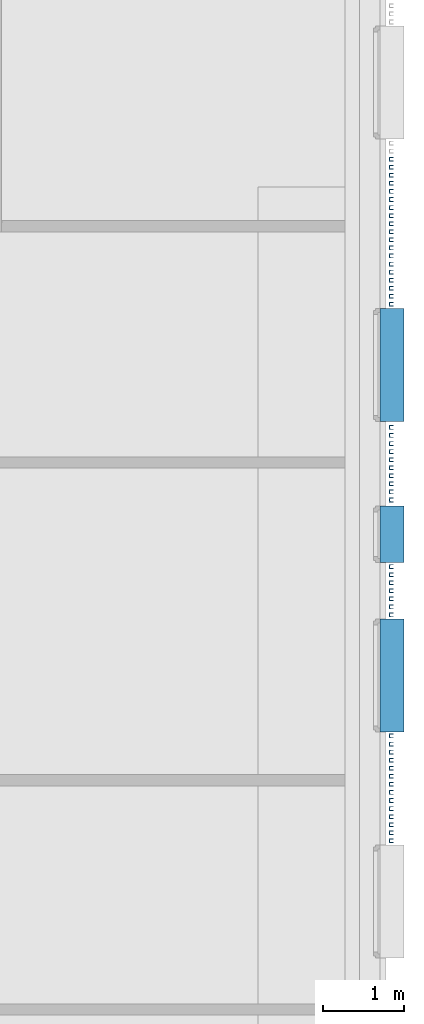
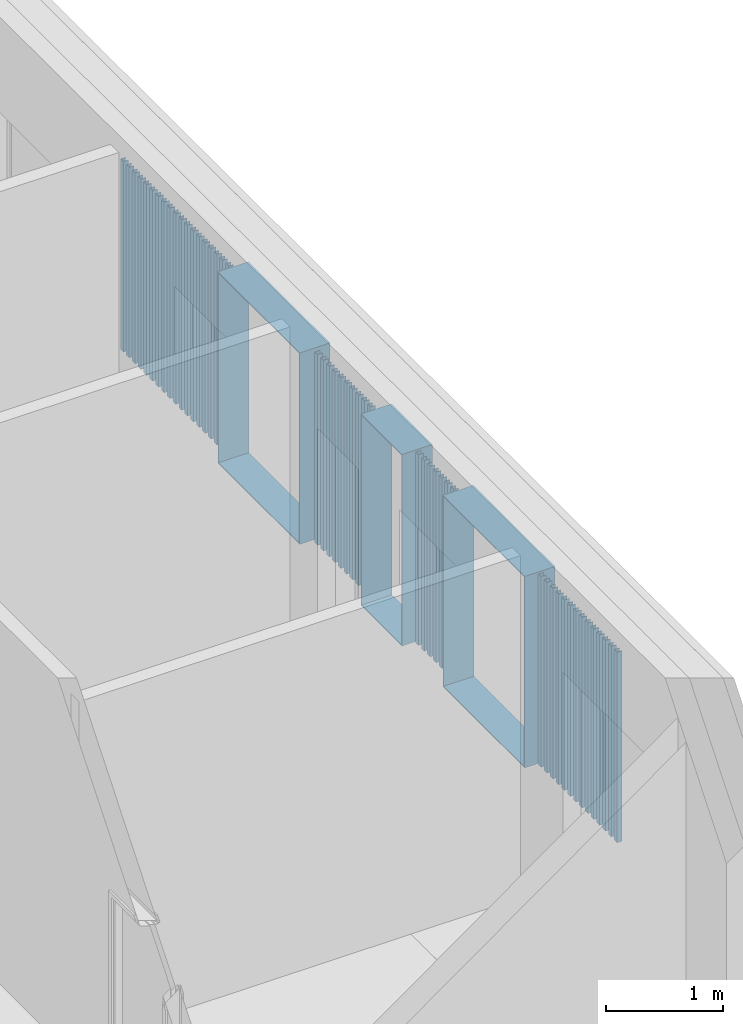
# One storey, part 38 of 100: 53 discrete accessories.
"""IFC2X3 building model written with IfcOpenShell, lengths in millimetres."""

import ifcopenshell
import ifcopenshell.guid

model = None  # the IFC model being written
_history = None  # IfcOwnerHistory: only IFC2X3 demands one
_inside = {}  # id of a spatial element -> (the spatial element, [elements in it])
_under = {}  # id of a project, library or spatial element -> (it, [spatial elements below it])
_declared = {}  # id of a project -> (the project, [libraries it declares])
_typed = {}  # id of a type object -> (the type object, [elements of that type])
_made_of = {}  # id of a material, layer set ... -> (it, [elements and type objects made of it])


def new_model(schema):
    """Start an empty IFC model of exactly this schema.

    Asked for "IFC4X3", IfcOpenShell would pick the latest addendum, in which some entities
    have other attributes; the version numbers below select the first issue.
    IFC2X3 requires an IfcOwnerHistory on every rooted entity: one is made here for all.
    """
    global model, _history
    if schema == "IFC4X3":
        model = ifcopenshell.file(schema_version=(4, 3, 0, 0))
    else:
        model = ifcopenshell.file(schema=schema)
    _inside.clear()
    _under.clear()
    _declared.clear()
    _typed.clear()
    _made_of.clear()
    _history = None
    if model.schema == "IFC2X3":
        org = make("IfcOrganization", Name="unknown")
        user = make(
            "IfcPersonAndOrganization",
            ThePerson=make("IfcPerson", FamilyName="unknown"),
            TheOrganization=org,
        )
        app = make(
            "IfcApplication",
            ApplicationDeveloper=org,
            Version="unknown",
            ApplicationFullName="unknown",
            ApplicationIdentifier="unknown",
        )
        _history = make(
            "IfcOwnerHistory",
            OwningUser=user,
            OwningApplication=app,
            ChangeAction="ADDED",
            CreationDate=0,
        )
    return model


def make(cls, **values):
    """One entity of the class cls with the attributes given. An attribute that is None is left unset."""
    return model.create_entity(
        cls, **{name: value for name, value in values.items() if value is not None}
    )


def entity(cls, *values):
    """Any entity or typed value of the class cls, its attributes in the order of the schema. None: left unset."""
    e = model.create_entity(cls)
    for i, value in enumerate(values):
        if value is not None:
            e[i] = value
    return e


def rooted(cls, **values):
    """An entity with a GlobalId (a new one), such as an element, a storey or a relation."""
    return make(cls, GlobalId=ifcopenshell.guid.new(), OwnerHistory=_history, **values)


def si_unit(unit_type, name, prefix=None):
    """IfcSIUnit, for example si_unit("LENGTHUNIT", "METRE", prefix="MILLI")."""
    return make("IfcSIUnit", UnitType=unit_type, Prefix=prefix, Name=name)


def converted_unit(unit_type, name, factor, base, dimensions=None, offset=None):
    """IfcConversionBasedUnit, such as the inch: factor (a typed value) times the base unit."""
    return make(
        "IfcConversionBasedUnit"
        if offset is None
        else "IfcConversionBasedUnitWithOffset",
        ConversionOffset=offset,
        Dimensions=None
        if dimensions is None
        else entity("IfcDimensionalExponents", *dimensions),
        UnitType=unit_type,
        Name=name,
        ConversionFactor=make(
            "IfcMeasureWithUnit", ValueComponent=factor, UnitComponent=base
        ),
    )


def derived_unit(unit_type, elements):
    """IfcDerivedUnit: a product of units, each with its exponent."""
    return make(
        "IfcDerivedUnit",
        Elements=[
            make("IfcDerivedUnitElement", Unit=unit, Exponent=power)
            for unit, power in elements
        ],
        UnitType=unit_type,
    )


def money_unit(currency):
    """IfcMonetaryUnit."""
    return make("IfcMonetaryUnit", Currency=currency)


def assignment(units):
    """IfcUnitAssignment: the units of a project."""
    return None if units is None else make("IfcUnitAssignment", Units=units)


def point(xyz):
    """IfcCartesianPoint."""
    return None if xyz is None else make("IfcCartesianPoint", Coordinates=xyz)


def direction(xyz):
    """IfcDirection."""
    return None if xyz is None else make("IfcDirection", DirectionRatios=xyz)


def frame(location, z_axis=None, x_axis=None):
    """IfcAxis2Placement3D, a coordinate frame: its origin and axes. An axis left out is left unset."""
    return make(
        "IfcAxis2Placement3D",
        Location=point(location),
        Axis=direction(z_axis),
        RefDirection=direction(x_axis),
    )


def origin_with_axes():
    """The frame at (0, 0, 0) with the z axis (0, 0, 1) and the x axis (1, 0, 0) written out."""
    return frame((0.0, 0.0, 0.0), z_axis=(0.0, 0.0, 1.0), x_axis=(1.0, 0.0, 0.0))


def place(relative_to, where):
    """IfcLocalPlacement: puts the frame where relative to a parent placement (None: the world)."""
    return make(
        "IfcLocalPlacement", PlacementRelTo=relative_to, RelativePlacement=where
    )


def context(
    kind, dimensions, precision=None, world=None, true_north=None, identifier=None
):
    """IfcGeometricRepresentationContext, for example the 3D "Model" context."""
    return make(
        "IfcGeometricRepresentationContext",
        ContextIdentifier=identifier,
        ContextType=kind,
        CoordinateSpaceDimension=dimensions,
        Precision=precision,
        WorldCoordinateSystem=world,
        TrueNorth=true_north,
    )


def subcontext(parent, identifier, kind, view, scale=None):
    """IfcGeometricRepresentationSubContext, for example "Body" below "Model"."""
    return make(
        "IfcGeometricRepresentationSubContext",
        ContextIdentifier=identifier,
        ContextType=kind,
        ParentContext=parent,
        TargetScale=scale,
        TargetView=view,
    )


def project(units=None, contexts=None):
    """IfcProject with its units and contexts."""
    return rooted(
        "IfcProject",
        Name="project",
        RepresentationContexts=contexts,
        UnitsInContext=assignment(units),
    )


def spatial(cls, under=None, at=None, **own):
    """A site, building, storey or space (cls), placed at a placement, below another one or the project."""
    s = rooted(cls, ObjectPlacement=at, **own)
    if under is not None:
        _under.setdefault(under.id(), (under, []))[1].append(s)
    return s


def faces_of(points, faces, orient=None, outer=None):
    """IfcFace entities. A face is a list of loops; a loop is a list of indices into points, from 0.

    orient and outer hold one flag for each loop. By default every Orientation is true, the
    first loop of a face is its IfcFaceOuterBound and the others are IfcFaceBound.
    """
    made = []
    for i, loops in enumerate(faces):
        bounds = []
        for j, loop in enumerate(loops):
            is_outer = j == 0 if outer is None else outer[i][j]
            bounds.append(
                make(
                    "IfcFaceOuterBound" if is_outer else "IfcFaceBound",
                    Bound=make("IfcPolyLoop", Polygon=[points[k] for k in loop]),
                    Orientation=True if orient is None else orient[i][j],
                )
            )
        made.append(make("IfcFace", Bounds=bounds))
    return made


def faceted_brep(points, faces, orient=None, outer=None, voids=None):
    """IfcFacetedBrep: a solid bounded by flat faces; with voids (closed shells), ...WithVoids."""
    shared = [point(p) for p in points]
    hull = make("IfcClosedShell", CfsFaces=faces_of(shared, faces, orient, outer))
    if voids is None:
        return make("IfcFacetedBrep", Outer=hull)
    return make(
        "IfcFacetedBrepWithVoids",
        Outer=hull,
        Voids=[
            make(cls, CfsFaces=faces_of(shared, fs, o, b)) for cls, fs, o, b in voids
        ],
    )


def shape(context_of_items, identifier, shape_type, items):
    """IfcShapeRepresentation: the items that make up one representation, for example the "Body"."""
    return make(
        "IfcShapeRepresentation",
        ContextOfItems=context_of_items,
        RepresentationIdentifier=identifier,
        RepresentationType=shape_type,
        Items=items,
    )


def source(mapping_origin, context_of_items, identifier, shape_type, items):
    """IfcRepresentationMap: a shape defined once, which mapped items show again and again."""
    return make(
        "IfcRepresentationMap",
        MappingOrigin=mapping_origin,
        MappedRepresentation=shape(context_of_items, identifier, shape_type, items),
    )


def transform(
    local_origin,
    x_axis=None,
    y_axis=None,
    z_axis=None,
    scale=None,
    scale2=None,
    scale3=None,
    uniform=True,
):
    """IfcCartesianTransformationOperator3D, or its non-uniform kind. x_axis, y_axis, z_axis: its Axis1, 2, 3."""
    if uniform:
        return make(
            "IfcCartesianTransformationOperator3D",
            Axis1=direction(x_axis),
            Axis2=direction(y_axis),
            LocalOrigin=point(local_origin),
            Scale=scale,
            Axis3=direction(z_axis),
        )
    return make(
        "IfcCartesianTransformationOperator3DnonUniform",
        Axis1=direction(x_axis),
        Axis2=direction(y_axis),
        LocalOrigin=point(local_origin),
        Scale=scale,
        Axis3=direction(z_axis),
        Scale2=scale2,
        Scale3=scale3,
    )


def mapped(mapping_source, mapping_target):
    """IfcMappedItem: shows the shape of a source again, moved by a transform."""
    return make(
        "IfcMappedItem", MappingSource=mapping_source, MappingTarget=mapping_target
    )


def material(Name=None, Category=None):
    """IfcMaterial."""
    return make("IfcMaterial", Name=Name, Category=Category)


def made_of(thing, what):
    """Note that an element or type object is made of a material, layer set ...; save() writes the relation."""
    if what is not None:
        _made_of.setdefault(what.id(), (what, []))[1].append(thing)
    return thing


def type_object(cls, material=None, **own):
    """A type object (cls), such as IfcWallType, which elements share."""
    return made_of(rooted(cls, **own), material)


def element(
    cls,
    number,
    at=None,
    inside=None,
    cuts=None,
    type_object=None,
    material=None,
    context=None,
    identifier="Body",
    shape_type=None,
    held_by="IfcProductDefinitionShape",
    body=None,
    shapes=None,
    **own,
):
    """One element of the class cls, such as IfcWall. Its Tag is "e" and its number.

    at: its placement. inside: the storey or other place that contains it. cuts: it is an
    opening in that element (IfcRelVoidsElement). A single representation is given by context,
    identifier, shape_type and body (its items); several are given by shapes. held_by: the class
    of the entity that holds the representations. save() writes the other relations.
    """
    e = rooted(cls, Tag="e%d" % number, ObjectPlacement=at, **own)
    if body is not None:
        shapes = [shape(context, identifier, shape_type, body)]
    if shapes is not None:
        e.Representation = make(held_by, Representations=shapes)
    if inside is not None:
        _inside.setdefault(inside.id(), (inside, []))[1].append(e)
    if cuts is not None:
        rooted(
            "IfcRelVoidsElement", RelatingBuildingElement=cuts, RelatedOpeningElement=e
        )
    if type_object is not None:
        _typed.setdefault(type_object.id(), (type_object, []))[1].append(e)
    return made_of(e, material)


def aggregate(whole, parts):
    """IfcRelAggregates: a whole, such as a stair, and the parts it consists of."""
    return rooted("IfcRelAggregates", RelatingObject=whole, RelatedObjects=parts)


def save(model, path):
    """Write the relations noted so far, then the file.

    IfcRelAggregates (storeys below a building ...), IfcRelContainedInSpatialStructure (elements
    in a storey), IfcRelDefinesByType, IfcRelAssociatesMaterial and IfcRelDeclares: one each for
    every whole, place, type object, material and project.
    """
    for whole, parts in _under.values():
        aggregate(whole, parts)
    for where, things in _inside.values():
        rooted(
            "IfcRelContainedInSpatialStructure",
            RelatedElements=things,
            RelatingStructure=where,
        )
    for kind, things in _typed.values():
        rooted("IfcRelDefinesByType", RelatedObjects=things, RelatingType=kind)
    for what, things in _made_of.values():
        rooted("IfcRelAssociatesMaterial", RelatedObjects=things, RelatingMaterial=what)
    for by, libraries in _declared.values():
        rooted("IfcRelDeclares", RelatingContext=by, RelatedDefinitions=libraries)
    model.write(path)


model = new_model("IFC2X3")

# Units and contexts
model_context = context("Model", 3, precision=0.01, world=origin_with_axes(), true_north=direction((0.0, 1.0)))
body_context = subcontext(model_context, "Body", "Model", "MODEL_VIEW")
ifc_project = project(units=[si_unit("LENGTHUNIT", "METRE", prefix="MILLI"), si_unit("AREAUNIT", "SQUARE_METRE"), si_unit("VOLUMEUNIT", "CUBIC_METRE"), converted_unit("PLANEANGLEUNIT", "DEGREE", entity("IfcPlaneAngleMeasure", 0.0174532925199), si_unit("PLANEANGLEUNIT", "RADIAN"), dimensions=[0, 0, 0, 0, 0, 0, 0]), si_unit("SOLIDANGLEUNIT", "STERADIAN"), money_unit("EUR"), converted_unit("TIMEUNIT", "Year", entity("IfcTimeMeasure", 31556926.0), si_unit("TIMEUNIT", "SECOND"), dimensions=[0, 0, 1, 0, 0, 0, 0]), si_unit("MASSUNIT", "GRAM", prefix="KILO"), si_unit("THERMODYNAMICTEMPERATUREUNIT", "DEGREE_CELSIUS"), si_unit("LUMINOUSINTENSITYUNIT", "LUMEN"), si_unit("ENERGYUNIT", "JOULE", prefix="MEGA"), derived_unit("THERMALCONDUCTANCEUNIT", [(si_unit("POWERUNIT", "WATT"), 1), (si_unit("LENGTHUNIT", "METRE"), -1), (si_unit("THERMODYNAMICTEMPERATUREUNIT", "KELVIN"), -1)]), derived_unit("SPECIFICHEATCAPACITYUNIT", [(si_unit("ENERGYUNIT", "JOULE"), 1), (si_unit("MASSUNIT", "GRAM", prefix="KILO"), -1), (si_unit("THERMODYNAMICTEMPERATUREUNIT", "KELVIN"), -1)]), derived_unit("MASSDENSITYUNIT", [(si_unit("MASSUNIT", "GRAM", prefix="KILO"), 1), (si_unit("VOLUMEUNIT", "CUBIC_METRE"), -1)])], contexts=[model_context])

# Site, building, storey
site_placement = place(None, origin_with_axes())
site = spatial("IfcSite", under=ifc_project, at=site_placement, Name="Politse- ja Piirivalveameti ning Päästeameti ühishoone", CompositionType="ELEMENT")
building_placement = place(site_placement, origin_with_axes())
building = spatial("IfcBuilding", under=site, at=building_placement, Name="Politse- ja Piirivalveameti ning Päästeameti ühishoone", CompositionType="ELEMENT")
storey_placement = place(building_placement, frame((0.0, 0.0, 3800.0), z_axis=(0.0, 0.0, 1.0), x_axis=(1.0, 0.0, 0.0)))
storey = spatial("IfcBuildingStorey", under=building, at=storey_placement, Name="Teine korrus", CompositionType="ELEMENT", Elevation=3800.0)

# Discrete accessories
ifc_material_1 = material(Name="SV-01_Krohv - Kips")
discrete_accessory_type_1 = type_object("IfcDiscreteAccessoryType", Name="Architrave 01 23")
shared_shape_1 = source(origin_with_axes(), body_context, "Body", "Brep", [
    faceted_brep([(-350.0, 0.0, -10.0), (350.0, 0.0, -10.0), (350.0, -300.182356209, -10.0), (-350.0, -300.182356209, -10.0), (-340.0, 0.0, 0.0), (340.0, 0.0, 0.0), (340.0, -300.182356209, 0.0), (-340.0, -300.182356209, 0.0)], [[[0, 1, 2, 3]], [[0, 4, 5, 1]], [[1, 5, 6, 2]], [[3, 2, 6, 7]], [[4, 0, 3, 7]], [[5, 4, 7, 6]]]),
    faceted_brep([(350.0, 0.0, -10.0), (350.0, 0.0, 1990.0), (350.0, -300.182356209, 1990.0), (350.0, -300.182356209, -10.0), (340.0, 0.0, 0.0), (340.0, 0.0, 1980.0), (340.0, -300.182356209, 1980.0), (340.0, -300.182356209, 0.0)], [[[0, 1, 2, 3]], [[0, 4, 5, 1]], [[1, 5, 6, 2]], [[3, 2, 6, 7]], [[4, 0, 3, 7]], [[5, 4, 7, 6]]]),
    faceted_brep([(350.0, 0.0, 1990.0), (-350.0, 0.0, 1990.0), (-350.0, -300.182356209, 1990.0), (350.0, -300.182356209, 1990.0), (340.0, 0.0, 1980.0), (-340.0, 0.0, 1980.0), (-340.0, -300.182356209, 1980.0), (340.0, -300.182356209, 1980.0)], [[[0, 1, 2, 3]], [[0, 4, 5, 1]], [[1, 5, 6, 2]], [[3, 2, 6, 7]], [[4, 0, 3, 7]], [[5, 4, 7, 6]]]),
    faceted_brep([(-350.0, 0.0, 1990.0), (-350.0, 0.0, -10.0), (-350.0, -300.182356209, -10.0), (-350.0, -300.182356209, 1990.0), (-340.0, 0.0, 1980.0), (-340.0, 0.0, 0.0), (-340.0, -300.182356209, 0.0), (-340.0, -300.182356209, 1980.0)], [[[0, 1, 2, 3]], [[0, 4, 5, 1]], [[1, 5, 6, 2]], [[3, 2, 6, 7]], [[4, 0, 3, 7]], [[5, 4, 7, 6]]]),
])
discrete_accessory_placement = place(storey_placement, frame((70090.5664257, 11499.9520832, 810.0), z_axis=(0.0, 0.0, 1.0), x_axis=(0.0, 1.0, 0.0)))
element("IfcDiscreteAccessory", 1, at=discrete_accessory_placement, inside=storey, type_object=discrete_accessory_type_1, material=ifc_material_1, Name="AKNARAAM 01", context=body_context, shape_type="MappedRepresentation", body=[
    mapped(shared_shape_1, transform((0.0, 0.0, 0.0))),
])
shared_shape_2 = source(origin_with_axes(), body_context, "Body", "Brep", [
    faceted_brep([(-700.0, 0.0, -10.0), (700.0, 0.0, -10.0), (700.0, -300.182356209, -10.0), (-700.0, -300.182356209, -10.0), (-690.0, 0.0, 0.0), (690.0, 0.0, 0.0), (690.0, -300.182356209, 0.0), (-690.0, -300.182356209, 0.0)], [[[0, 1, 2, 3]], [[0, 4, 5, 1]], [[1, 5, 6, 2]], [[3, 2, 6, 7]], [[4, 0, 3, 7]], [[5, 4, 7, 6]]]),
    faceted_brep([(700.0, 0.0, -10.0), (700.0, 0.0, 1990.0), (700.0, -300.182356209, 1990.0), (700.0, -300.182356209, -10.0), (690.0, 0.0, 0.0), (690.0, 0.0, 1980.0), (690.0, -300.182356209, 1980.0), (690.0, -300.182356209, 0.0)], [[[0, 1, 2, 3]], [[0, 4, 5, 1]], [[1, 5, 6, 2]], [[3, 2, 6, 7]], [[4, 0, 3, 7]], [[5, 4, 7, 6]]]),
    faceted_brep([(700.0, 0.0, 1990.0), (-700.0, 0.0, 1990.0), (-700.0, -300.182356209, 1990.0), (700.0, -300.182356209, 1990.0), (690.0, 0.0, 1980.0), (-690.0, 0.0, 1980.0), (-690.0, -300.182356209, 1980.0), (690.0, -300.182356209, 1980.0)], [[[0, 1, 2, 3]], [[0, 4, 5, 1]], [[1, 5, 6, 2]], [[3, 2, 6, 7]], [[4, 0, 3, 7]], [[5, 4, 7, 6]]]),
    faceted_brep([(-700.0, 0.0, 1990.0), (-700.0, 0.0, -10.0), (-700.0, -300.182356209, -10.0), (-700.0, -300.182356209, 1990.0), (-690.0, 0.0, 1980.0), (-690.0, 0.0, 0.0), (-690.0, -300.182356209, 0.0), (-690.0, -300.182356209, 1980.0)], [[[0, 1, 2, 3]], [[0, 4, 5, 1]], [[1, 5, 6, 2]], [[3, 2, 6, 7]], [[4, 0, 3, 7]], [[5, 4, 7, 6]]]),
])
for number, where, z_axis, x_axis, name in (
    (2, (70090.5664257, 9749.95208321, 810.0), (0.0, 0.0, 1.0), (0.0, 1.0, 0.0), "AKNARAAM 01"),
    (3, (70090.5664257, 13599.9520832, 810.0), (0.0, 0.0, 1.0), (0.0, 1.0, 0.0), "AKNARAAM 01"),
):
    element("IfcDiscreteAccessory", number, at=place(storey_placement, frame(where, z_axis=z_axis, x_axis=x_axis)), inside=storey, type_object=discrete_accessory_type_1, material=ifc_material_1, Name=name, context=body_context, shape_type="MappedRepresentation", body=[
        mapped(shared_shape_2, transform((0.0, 0.0, 0.0))),
    ])
ifc_material_2 = material(Name="ET-05_Teras")
discrete_accessory_type_2 = type_object("IfcDiscreteAccessoryType", Name="UAP Column 23")
shared_shape_3 = source(origin_with_axes(), body_context, "Body", "Brep", [
    faceted_brep([(25.0, -25.0, 0.0), (25.0, -20.0, 0.0), (25.0, -20.0, 1990.0), (25.0, -25.0, 1990.0), (-25.0, -25.0, 0.0), (-25.0, 25.0, 0.0), (25.0, 25.0, 0.0), (25.0, 20.0, 0.0), (-8.5, 20.0, 0.0), (-14.25, 18.4592921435, 0.0), (-18.4592921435, 14.25, 0.0), (-20.0, 8.5, 0.0), (-20.0, -8.5, 0.0), (-18.4592921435, -14.25, 0.0), (-14.25, -18.4592921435, 0.0), (-8.5, -20.0, 0.0), (-8.5, -20.0, 1990.0), (-14.25, -18.4592921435, 1990.0), (-18.4592921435, -14.25, 1990.0), (-20.0, -8.5, 1990.0), (-20.0, 8.5, 1990.0), (-18.4592921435, 14.25, 1990.0), (-14.25, 18.4592921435, 1990.0), (-8.5, 20.0, 1990.0), (25.0, 20.0, 1990.0), (25.0, 25.0, 1990.0), (-25.0, 25.0, 1990.0), (-25.0, -25.0, 1990.0)], [[[0, 1, 2, 3]], [[0, 4, 5, 6, 7, 8, 9, 10, 11, 12, 13, 14, 15, 1]], [[1, 15, 16, 2]], [[3, 2, 16, 17, 18, 19, 20, 21, 22, 23, 24, 25, 26, 27]], [[4, 0, 3, 27]], [[5, 4, 27, 26]], [[6, 5, 26, 25]], [[7, 6, 25, 24]], [[8, 7, 24, 23]], [[9, 8, 23, 22]], [[10, 9, 22, 21]], [[11, 10, 21, 20]], [[12, 11, 20, 19]], [[13, 12, 19, 18]], [[14, 13, 18, 17]], [[15, 14, 17, 16]]]),
])
for number, where, z_axis, x_axis in (
    (4, (70235.2095212, 7699.95208321, 810.000049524), (0.0, 0.0, 1.0), (1.0, 0.0, 0.0)),
    (5, (70235.2095212, 7799.95208321, 810.000049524), (0.0, 0.0, 1.0), (1.0, 0.0, 0.0)),
    (6, (70235.2095212, 7899.95208321, 810.000049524), (0.0, 0.0, 1.0), (1.0, 0.0, 0.0)),
    (7, (70235.2095212, 7999.95208321, 810.000049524), (0.0, 0.0, 1.0), (1.0, 0.0, 0.0)),
    (8, (70235.2095212, 8099.95208321, 810.000049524), (0.0, 0.0, 1.0), (1.0, 0.0, 0.0)),
    (9, (70235.2095212, 8199.95208321, 810.000049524), (0.0, 0.0, 1.0), (1.0, 0.0, 0.0)),
    (10, (70235.2095212, 8299.95208321, 810.000049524), (0.0, 0.0, 1.0), (1.0, 0.0, 0.0)),
    (11, (70235.2095212, 8399.95208321, 810.000049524), (0.0, 0.0, 1.0), (1.0, 0.0, 0.0)),
    (12, (70235.2095212, 8499.95208321, 810.000049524), (0.0, 0.0, 1.0), (1.0, 0.0, 0.0)),
    (13, (70235.2095212, 8599.95208321, 810.000049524), (0.0, 0.0, 1.0), (1.0, 0.0, 0.0)),
    (14, (70235.2095212, 8699.95208321, 810.000049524), (0.0, 0.0, 1.0), (1.0, 0.0, 0.0)),
    (15, (70235.2095212, 8799.95208321, 810.000049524), (0.0, 0.0, 1.0), (1.0, 0.0, 0.0)),
    (16, (70235.2095212, 8899.95208321, 810.000049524), (0.0, 0.0, 1.0), (1.0, 0.0, 0.0)),
    (17, (70235.2095212, 8999.95208321, 810.000049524), (0.0, 0.0, 1.0), (1.0, 0.0, 0.0)),
    (18, (70235.2095212, 14349.9520832, 810.000049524), (0.0, 0.0, 1.0), (1.0, 0.0, 0.0)),
    (19, (70235.2095212, 14449.9520832, 810.000049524), (0.0, 0.0, 1.0), (1.0, 0.0, 0.0)),
    (20, (70235.2095212, 14549.9520832, 810.000049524), (0.0, 0.0, 1.0), (1.0, 0.0, 0.0)),
    (21, (70235.2095212, 14649.9520832, 810.000049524), (0.0, 0.0, 1.0), (1.0, 0.0, 0.0)),
    (22, (70235.2095212, 14749.9520832, 810.000049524), (0.0, 0.0, 1.0), (1.0, 0.0, 0.0)),
    (23, (70235.2095212, 14849.9520832, 810.000049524), (0.0, 0.0, 1.0), (1.0, 0.0, 0.0)),
    (24, (70235.2095212, 14949.9520832, 810.000049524), (0.0, 0.0, 1.0), (1.0, 0.0, 0.0)),
    (25, (70235.2095212, 15049.9520832, 810.000049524), (0.0, 0.0, 1.0), (1.0, 0.0, 0.0)),
    (26, (70235.2095212, 15149.9520832, 810.000049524), (0.0, 0.0, 1.0), (1.0, 0.0, 0.0)),
    (27, (70235.2095212, 15249.9520832, 810.000049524), (0.0, 0.0, 1.0), (1.0, 0.0, 0.0)),
    (28, (70235.2095212, 15349.9520832, 810.000049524), (0.0, 0.0, 1.0), (1.0, 0.0, 0.0)),
    (29, (70235.2095212, 15449.9520832, 810.000049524), (0.0, 0.0, 1.0), (1.0, 0.0, 0.0)),
    (30, (70235.2095212, 15549.9520832, 810.000049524), (0.0, 0.0, 1.0), (1.0, 0.0, 0.0)),
    (31, (70235.2095212, 15649.9520832, 810.000049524), (0.0, 0.0, 1.0), (1.0, 0.0, 0.0)),
    (32, (70235.2095212, 15749.9520832, 810.000049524), (0.0, 0.0, 1.0), (1.0, 0.0, 0.0)),
    (33, (70235.2095212, 15849.9520832, 810.000049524), (0.0, 0.0, 1.0), (1.0, 0.0, 0.0)),
    (34, (70235.2095212, 15949.9520832, 810.000049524), (0.0, 0.0, 1.0), (1.0, 0.0, 0.0)),
    (35, (70235.2095212, 16049.9520832, 810.000049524), (0.0, 0.0, 1.0), (1.0, 0.0, 0.0)),
    (36, (70235.2095212, 16149.9520832, 810.000049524), (0.0, 0.0, 1.0), (1.0, 0.0, 0.0)),
    (37, (70235.2095212, 10499.9520832, 810.000049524), (0.0, 0.0, 1.0), (1.0, 0.0, 0.0)),
    (38, (70235.2095212, 10599.9520832, 810.000049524), (0.0, 0.0, 1.0), (1.0, 0.0, 0.0)),
    (39, (70235.2095212, 10699.9520832, 810.000049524), (0.0, 0.0, 1.0), (1.0, 0.0, 0.0)),
    (40, (70235.2095212, 10799.9520832, 810.000049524), (0.0, 0.0, 1.0), (1.0, 0.0, 0.0)),
    (41, (70235.2095212, 10899.9520832, 810.000049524), (0.0, 0.0, 1.0), (1.0, 0.0, 0.0)),
    (42, (70235.2095212, 10999.9520832, 810.000049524), (0.0, 0.0, 1.0), (1.0, 0.0, 0.0)),
    (43, (70235.2095212, 11099.9520832, 810.000049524), (0.0, 0.0, 1.0), (1.0, 0.0, 0.0)),
    (44, (70235.2095212, 11924.9520832, 810.000049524), (0.0, 0.0, 1.0), (1.0, 0.0, 0.0)),
    (45, (70235.2095212, 12024.9520832, 810.000049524), (0.0, 0.0, 1.0), (1.0, 0.0, 0.0)),
    (46, (70235.2095212, 12124.9520832, 810.000049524), (0.0, 0.0, 1.0), (1.0, 0.0, 0.0)),
    (47, (70235.2095212, 12224.9520832, 810.000049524), (0.0, 0.0, 1.0), (1.0, 0.0, 0.0)),
    (48, (70235.2095212, 12324.9520832, 810.000049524), (0.0, 0.0, 1.0), (1.0, 0.0, 0.0)),
    (49, (70235.2095212, 12424.9520832, 810.000049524), (0.0, 0.0, 1.0), (1.0, 0.0, 0.0)),
    (50, (70235.2095212, 12524.9520832, 810.000049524), (0.0, 0.0, 1.0), (1.0, 0.0, 0.0)),
    (51, (70235.2095212, 12624.9520832, 810.000049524), (0.0, 0.0, 1.0), (1.0, 0.0, 0.0)),
    (52, (70235.2095212, 12724.9520832, 810.000049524), (0.0, 0.0, 1.0), (1.0, 0.0, 0.0)),
    (53, (70235.2095212, 12824.9520832, 810.000049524), (0.0, 0.0, 1.0), (1.0, 0.0, 0.0)),
):
    element("IfcDiscreteAccessory", number, at=place(storey_placement, frame(where, z_axis=z_axis, x_axis=x_axis)), inside=storey, type_object=discrete_accessory_type_2, material=ifc_material_2, Name="Fassaadiribid", context=body_context, shape_type="MappedRepresentation", body=[
        mapped(shared_shape_3, transform((0.0, 0.0, 0.0))),
    ])

save(model, "model.ifc")
